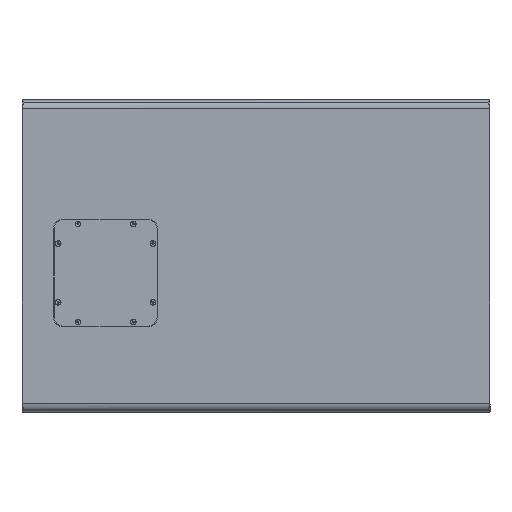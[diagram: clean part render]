
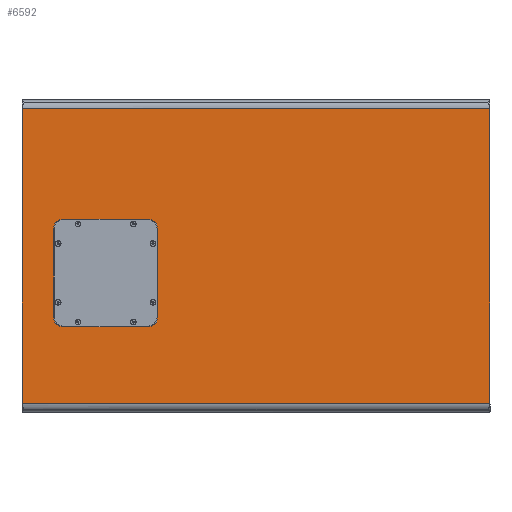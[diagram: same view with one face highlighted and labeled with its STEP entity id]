
A CAD part, top view. The second image highlights one B-rep face of the part: STEP entity #6592.
In plain terms, the highlighted planar face has unit normal (0, 0, 1).
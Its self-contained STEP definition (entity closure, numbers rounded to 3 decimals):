
#10 = AXIS2_PLACEMENT_3D ( 'NONE', #6650, #13946, #8451 ) ;
#94 = VERTEX_POINT ( 'NONE', #13835 ) ;
#99 = LINE ( 'NONE', #18639, #18846 ) ;
#520 = DIRECTION ( 'NONE',  ( 0., 1., 0. ) ) ;
#533 = CARTESIAN_POINT ( 'NONE',  ( -157.734, 40.132, 177.8 ) ) ;
#784 = CARTESIAN_POINT ( 'NONE',  ( -342.9, -215.9, 177.8 ) ) ;
#1059 = LINE ( 'NONE', #10042, #2273 ) ;
#1742 = DIRECTION ( 'NONE',  ( -1., 0., 0. ) ) ;
#1980 = CARTESIAN_POINT ( 'NONE',  ( -296.672, 40.132, 177.8 ) ) ;
#1989 = CIRCLE ( 'NONE', #3526, 13.462 ) ;
#2082 = VERTEX_POINT ( 'NONE', #5751 ) ;
#2273 = VECTOR ( 'NONE', #13867, 1000. ) ;
#3064 = DIRECTION ( 'NONE',  ( 1., 0., 0. ) ) ;
#3480 = VECTOR ( 'NONE', #4064, 1000. ) ;
#3526 = AXIS2_PLACEMENT_3D ( 'NONE', #17330, #9893, #3064 ) ;
#3653 = EDGE_CURVE ( 'NONE', #5756, #18296, #22271, .T. ) ;
#3762 = VERTEX_POINT ( 'NONE', #6320 ) ;
#3822 = CIRCLE ( 'NONE', #10, 13.462 ) ;
#4058 = LINE ( 'NONE', #6671, #15444 ) ;
#4064 = DIRECTION ( 'NONE',  ( 0., -1., 0. ) ) ;
#4611 = AXIS2_PLACEMENT_3D ( 'NONE', #7194, #9453, #7325 ) ;
#4758 = VERTEX_POINT ( 'NONE', #5273 ) ;
#4926 = CARTESIAN_POINT ( 'NONE',  ( -157.734, -103.632, 177.8 ) ) ;
#4995 = ORIENTED_EDGE ( 'NONE', *, *, #21730, .F. ) ;
#5273 = CARTESIAN_POINT ( 'NONE',  ( -157.734, 53.594, 177.8 ) ) ;
#5394 = CIRCLE ( 'NONE', #4611, 13.462 ) ;
#5455 = DIRECTION ( 'NONE',  ( -1., 0., 0. ) ) ;
#5556 = CARTESIAN_POINT ( 'NONE',  ( -342.9, 228.6, 177.8 ) ) ;
#5732 = AXIS2_PLACEMENT_3D ( 'NONE', #23653, #21979, #1742 ) ;
#5751 = CARTESIAN_POINT ( 'NONE',  ( -296.672, -90.17, 177.8 ) ) ;
#5756 = VERTEX_POINT ( 'NONE', #8538 ) ;
#6062 = EDGE_CURVE ( 'NONE', #94, #11669, #1059, .T. ) ;
#6320 = CARTESIAN_POINT ( 'NONE',  ( -342.9, 215.9, 177.8 ) ) ;
#6514 = EDGE_CURVE ( 'NONE', #11669, #12540, #3822, .T. ) ;
#6592 = ADVANCED_FACE ( 'NONE', ( #9294, #21870 ), #9166, .F. ) ;
#6650 = CARTESIAN_POINT ( 'NONE',  ( -157.734, -90.17, 177.8 ) ) ;
#6671 = CARTESIAN_POINT ( 'NONE',  ( -157.734, 53.594, 177.8 ) ) ;
#6688 = EDGE_CURVE ( 'NONE', #19999, #4758, #21040, .T. ) ;
#7194 = CARTESIAN_POINT ( 'NONE',  ( -283.21, 40.132, 177.8 ) ) ;
#7325 = DIRECTION ( 'NONE',  ( 1., 0., 0. ) ) ;
#7461 = VERTEX_POINT ( 'NONE', #20372 ) ;
#7719 = LINE ( 'NONE', #1980, #20407 ) ;
#7955 = ORIENTED_EDGE ( 'NONE', *, *, #10816, .F. ) ;
#8451 = DIRECTION ( 'NONE',  ( 1., 0., 0. ) ) ;
#8499 = EDGE_LOOP ( 'NONE', ( #15094, #12546, #15001, #15430 ) ) ;
#8538 = CARTESIAN_POINT ( 'NONE',  ( 342.9, 215.9, 177.8 ) ) ;
#8658 = EDGE_CURVE ( 'NONE', #2082, #94, #1989, .T. ) ;
#9044 = CARTESIAN_POINT ( 'NONE',  ( 342.9, 215.9, 177.8 ) ) ;
#9166 = PLANE ( 'NONE',  #5732 ) ;
#9294 = FACE_BOUND ( 'NONE', #21053, .T. ) ;
#9453 = DIRECTION ( 'NONE',  ( 0., 0., 1. ) ) ;
#9493 = VECTOR ( 'NONE', #520, 1000. ) ;
#9893 = DIRECTION ( 'NONE',  ( 0., 0., 1. ) ) ;
#10042 = CARTESIAN_POINT ( 'NONE',  ( -283.21, -103.632, 177.8 ) ) ;
#10199 = DIRECTION ( 'NONE',  ( 0., 1., 0. ) ) ;
#10259 = EDGE_CURVE ( 'NONE', #18296, #22480, #99, .T. ) ;
#10319 = LINE ( 'NONE', #17504, #13443 ) ;
#10472 = EDGE_CURVE ( 'NONE', #7461, #2082, #7719, .T. ) ;
#10588 = LINE ( 'NONE', #9044, #21024 ) ;
#10688 = CARTESIAN_POINT ( 'NONE',  ( -144.272, -90.17, 177.8 ) ) ;
#10816 = EDGE_CURVE ( 'NONE', #4758, #19739, #4058, .T. ) ;
#11224 = DIRECTION ( 'NONE',  ( -1., 0., 0. ) ) ;
#11341 = ORIENTED_EDGE ( 'NONE', *, *, #10472, .F. ) ;
#11669 = VERTEX_POINT ( 'NONE', #4926 ) ;
#12306 = DIRECTION ( 'NONE',  ( -1., 0., 0. ) ) ;
#12527 = ORIENTED_EDGE ( 'NONE', *, *, #6514, .F. ) ;
#12540 = VERTEX_POINT ( 'NONE', #10688 ) ;
#12546 = ORIENTED_EDGE ( 'NONE', *, *, #23170, .F. ) ;
#13443 = VECTOR ( 'NONE', #10199, 1000. ) ;
#13835 = CARTESIAN_POINT ( 'NONE',  ( -283.21, -103.632, 177.8 ) ) ;
#13867 = DIRECTION ( 'NONE',  ( 1., 0., 0. ) ) ;
#13946 = DIRECTION ( 'NONE',  ( 0., 0., 1. ) ) ;
#14929 = AXIS2_PLACEMENT_3D ( 'NONE', #533, #15379, #15027 ) ;
#15001 = ORIENTED_EDGE ( 'NONE', *, *, #10259, .F. ) ;
#15027 = DIRECTION ( 'NONE',  ( 1., 0., 0. ) ) ;
#15094 = ORIENTED_EDGE ( 'NONE', *, *, #18108, .T. ) ;
#15379 = DIRECTION ( 'NONE',  ( 0., 0., 1. ) ) ;
#15411 = ORIENTED_EDGE ( 'NONE', *, *, #8658, .F. ) ;
#15430 = ORIENTED_EDGE ( 'NONE', *, *, #3653, .F. ) ;
#15444 = VECTOR ( 'NONE', #12306, 1000. ) ;
#15706 = ORIENTED_EDGE ( 'NONE', *, *, #6688, .F. ) ;
#16661 = ORIENTED_EDGE ( 'NONE', *, *, #6062, .F. ) ;
#17043 = CARTESIAN_POINT ( 'NONE',  ( 342.9, -215.9, 177.8 ) ) ;
#17330 = CARTESIAN_POINT ( 'NONE',  ( -283.21, -90.17, 177.8 ) ) ;
#17332 = CARTESIAN_POINT ( 'NONE',  ( -283.21, 53.594, 177.8 ) ) ;
#17504 = CARTESIAN_POINT ( 'NONE',  ( -144.272, -90.17, 177.8 ) ) ;
#18108 = EDGE_CURVE ( 'NONE', #5756, #3762, #10588, .T. ) ;
#18280 = CARTESIAN_POINT ( 'NONE',  ( -144.272, 40.132, 177.8 ) ) ;
#18296 = VERTEX_POINT ( 'NONE', #17043 ) ;
#18568 = CARTESIAN_POINT ( 'NONE',  ( 342.9, 228.6, 177.8 ) ) ;
#18639 = CARTESIAN_POINT ( 'NONE',  ( 342.9, -215.9, 177.8 ) ) ;
#18846 = VECTOR ( 'NONE', #11224, 1000. ) ;
#18864 = EDGE_CURVE ( 'NONE', #19739, #7461, #5394, .T. ) ;
#19315 = ORIENTED_EDGE ( 'NONE', *, *, #18864, .F. ) ;
#19739 = VERTEX_POINT ( 'NONE', #17332 ) ;
#19999 = VERTEX_POINT ( 'NONE', #18280 ) ;
#20372 = CARTESIAN_POINT ( 'NONE',  ( -296.672, 40.132, 177.8 ) ) ;
#20407 = VECTOR ( 'NONE', #21971, 1000. ) ;
#21024 = VECTOR ( 'NONE', #5455, 1000. ) ;
#21040 = CIRCLE ( 'NONE', #14929, 13.462 ) ;
#21053 = EDGE_LOOP ( 'NONE', ( #16661, #15411, #11341, #19315, #7955, #15706, #4995, #12527 ) ) ;
#21730 = EDGE_CURVE ( 'NONE', #12540, #19999, #10319, .T. ) ;
#21870 = FACE_OUTER_BOUND ( 'NONE', #8499, .T. ) ;
#21967 = LINE ( 'NONE', #5556, #9493 ) ;
#21971 = DIRECTION ( 'NONE',  ( 0., -1., 0. ) ) ;
#21979 = DIRECTION ( 'NONE',  ( 0., 0., -1. ) ) ;
#22271 = LINE ( 'NONE', #18568, #3480 ) ;
#22480 = VERTEX_POINT ( 'NONE', #784 ) ;
#23170 = EDGE_CURVE ( 'NONE', #22480, #3762, #21967, .T. ) ;
#23653 = CARTESIAN_POINT ( 'NONE',  ( 342.9, -228.6, 177.8 ) ) ;
